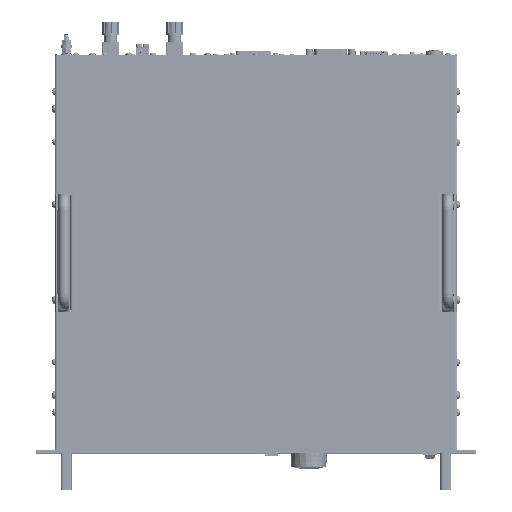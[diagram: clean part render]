
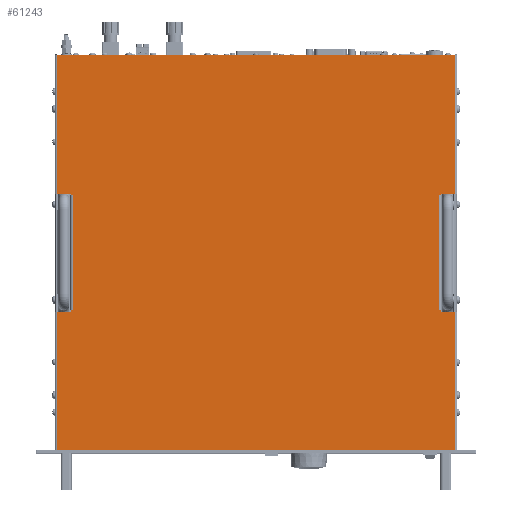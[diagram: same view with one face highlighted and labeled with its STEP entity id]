
A CAD part, top view. The second image highlights one B-rep face of the part: STEP entity #61243.
In plain terms, the highlighted planar face has unit normal (0, 0, 1).
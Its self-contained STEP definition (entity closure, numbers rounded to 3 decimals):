
#61243=ADVANCED_FACE('',(#126492),#126493,.F.);
#126492=FACE_OUTER_BOUND('',#227764,.T.);
#126493=PLANE('',#227765);
#227764=EDGE_LOOP('',(#398678,#398679,#398680,#398681,#398682,#398683,#398684,#398685,#398686,#398687,#398688,#398689,#398690,#398691,#398692,#398693,#398694,#398695,#398696,#398697));
#227765=AXIS2_PLACEMENT_3D('',#398698,#398699,#398700);
#398678=ORIENTED_EDGE('',*,*,#491379,.T.);
#398679=ORIENTED_EDGE('',*,*,#491399,.F.);
#398680=ORIENTED_EDGE('',*,*,#491400,.F.);
#398681=ORIENTED_EDGE('',*,*,#491043,.F.);
#398682=ORIENTED_EDGE('',*,*,#491365,.F.);
#398683=ORIENTED_EDGE('',*,*,#491028,.F.);
#398684=ORIENTED_EDGE('',*,*,#491354,.F.);
#398685=ORIENTED_EDGE('',*,*,#491401,.F.);
#398686=ORIENTED_EDGE('',*,*,#491397,.T.);
#398687=ORIENTED_EDGE('',*,*,#491392,.F.);
#398688=ORIENTED_EDGE('',*,*,#491389,.T.);
#398689=ORIENTED_EDGE('',*,*,#491402,.F.);
#398690=ORIENTED_EDGE('',*,*,#491330,.F.);
#398691=ORIENTED_EDGE('',*,*,#491018,.F.);
#398692=ORIENTED_EDGE('',*,*,#491319,.F.);
#398693=ORIENTED_EDGE('',*,*,#491038,.F.);
#398694=ORIENTED_EDGE('',*,*,#491403,.F.);
#398695=ORIENTED_EDGE('',*,*,#491404,.F.);
#398696=ORIENTED_EDGE('',*,*,#491376,.T.);
#398697=ORIENTED_EDGE('',*,*,#491384,.T.);
#398698=CARTESIAN_POINT('',(239.8,220.125,86.465));
#398699=DIRECTION('',(0.,0.,-1.0));
#398700=DIRECTION('',(1.0,0.,0.));
#491018=EDGE_CURVE('',#594998,#595000,#595001,.T.);
#491028=EDGE_CURVE('',#595016,#595018,#595019,.T.);
#491038=EDGE_CURVE('',#595034,#595036,#595037,.T.);
#491043=EDGE_CURVE('',#595043,#595045,#595046,.T.);
#491319=EDGE_CURVE('',#595036,#594998,#595476,.T.);
#491330=EDGE_CURVE('',#595000,#595491,#595492,.T.);
#491354=EDGE_CURVE('',#595524,#595016,#595526,.T.);
#491365=EDGE_CURVE('',#595018,#595043,#595541,.T.);
#491376=EDGE_CURVE('',#595552,#595555,#595557,.T.);
#491379=EDGE_CURVE('',#595562,#595559,#595563,.T.);
#491384=EDGE_CURVE('',#595555,#595562,#595568,.T.);
#491389=EDGE_CURVE('',#595574,#595572,#595575,.T.);
#491392=EDGE_CURVE('',#595574,#595578,#595579,.T.);
#491397=EDGE_CURVE('',#595584,#595578,#595586,.T.);
#491399=EDGE_CURVE('',#595588,#595559,#595589,.T.);
#491400=EDGE_CURVE('',#595045,#595588,#595590,.T.);
#491401=EDGE_CURVE('',#595584,#595524,#595591,.T.);
#491402=EDGE_CURVE('',#595491,#595572,#595592,.T.);
#491403=EDGE_CURVE('',#595593,#595034,#595594,.T.);
#491404=EDGE_CURVE('',#595552,#595593,#595595,.T.);
#594998=VERTEX_POINT('',#740963);
#595000=VERTEX_POINT('',#740965);
#595001=LINE('',#740966,#740967);
#595016=VERTEX_POINT('',#740985);
#595018=VERTEX_POINT('',#740987);
#595019=LINE('',#740988,#740989);
#595034=VERTEX_POINT('',#741007);
#595036=VERTEX_POINT('',#741009);
#595037=LINE('',#741010,#741011);
#595043=VERTEX_POINT('',#741018);
#595045=VERTEX_POINT('',#741020);
#595046=LINE('',#741021,#741022);
#595476=LINE('',#741573,#741574);
#595491=VERTEX_POINT('',#741594);
#595492=LINE('',#741595,#741596);
#595524=VERTEX_POINT('',#741642);
#595526=LINE('',#741645,#741646);
#595541=LINE('',#741666,#741667);
#595552=VERTEX_POINT('',#741682);
#595555=VERTEX_POINT('',#741686);
#595557=LINE('',#741688,#741689);
#595559=VERTEX_POINT('',#741691);
#595562=VERTEX_POINT('',#741695);
#595563=LINE('',#741696,#741697);
#595568=LINE('',#741702,#741703);
#595572=VERTEX_POINT('',#741708);
#595574=VERTEX_POINT('',#741711);
#595575=LINE('',#741712,#741713);
#595578=VERTEX_POINT('',#741716);
#595579=LINE('',#741717,#741718);
#595584=VERTEX_POINT('',#741723);
#595586=LINE('',#741726,#741727);
#595588=VERTEX_POINT('',#741729);
#595589=LINE('',#741730,#741731);
#595590=LINE('',#741732,#741733);
#595591=LINE('',#741734,#741735);
#595592=LINE('',#741736,#741737);
#595593=VERTEX_POINT('',#741738);
#595594=LINE('',#741739,#741740);
#595595=LINE('',#741741,#741742);
#740963=CARTESIAN_POINT('',(22.123,3.5,86.465));
#740965=CARTESIAN_POINT('',(22.123,155.5,86.465));
#740966=CARTESIAN_POINT('',(22.123,149.813,86.465));
#740967=VECTOR('',#842588,1.0);
#740985=CARTESIAN_POINT('',(22.123,284.75,86.465));
#740987=CARTESIAN_POINT('',(22.123,436.75,86.465));
#740988=CARTESIAN_POINT('',(22.123,290.438,86.465));
#740989=VECTOR('',#842604,1.0);
#741007=CARTESIAN_POINT('',(457.477,155.5,86.465));
#741009=CARTESIAN_POINT('',(457.477,3.5,86.465));
#741010=CARTESIAN_POINT('',(457.477,149.813,86.465));
#741011=VECTOR('',#842620,1.0);
#741018=CARTESIAN_POINT('',(457.477,436.75,86.465));
#741020=CARTESIAN_POINT('',(457.477,284.75,86.465));
#741021=CARTESIAN_POINT('',(457.477,290.438,86.465));
#741022=VECTOR('',#842628,1.0);
#741573=CARTESIAN_POINT('',(460.227,3.5,86.465));
#741574=VECTOR('',#843014,1.0);
#741594=CARTESIAN_POINT('',(37.373,155.5,86.465));
#741595=CARTESIAN_POINT('',(19.373,155.5,86.465));
#741596=VECTOR('',#843032,1.0);
#741642=CARTESIAN_POINT('',(37.373,284.75,86.465));
#741645=CARTESIAN_POINT('',(37.373,284.75,86.465));
#741646=VECTOR('',#843060,1.0);
#741666=CARTESIAN_POINT('',(19.373,436.75,86.465));
#741667=VECTOR('',#843078,1.0);
#741682=CARTESIAN_POINT('',(442.227,157.5,86.465));
#741686=CARTESIAN_POINT('',(440.477,157.5,86.465));
#741688=CARTESIAN_POINT('',(341.093,157.5,86.465));
#741689=VECTOR('',#843090,1.0);
#741691=CARTESIAN_POINT('',(442.227,282.75,86.465));
#741695=CARTESIAN_POINT('',(440.477,282.75,86.465));
#741696=CARTESIAN_POINT('',(341.093,282.75,86.465));
#741697=VECTOR('',#843092,1.0);
#741702=CARTESIAN_POINT('',(440.477,220.125,86.465));
#741703=VECTOR('',#843102,1.0);
#741708=CARTESIAN_POINT('',(37.373,157.5,86.465));
#741711=CARTESIAN_POINT('',(39.123,157.5,86.465));
#741712=CARTESIAN_POINT('',(138.507,157.5,86.465));
#741713=VECTOR('',#843105,1.0);
#741716=CARTESIAN_POINT('',(39.123,282.75,86.465));
#741717=CARTESIAN_POINT('',(39.123,220.125,86.465));
#741718=VECTOR('',#843109,1.0);
#741723=CARTESIAN_POINT('',(37.373,282.75,86.465));
#741726=CARTESIAN_POINT('',(138.507,282.75,86.465));
#741727=VECTOR('',#843117,1.0);
#741729=CARTESIAN_POINT('',(442.227,284.75,86.465));
#741730=CARTESIAN_POINT('',(442.227,284.75,86.465));
#741731=VECTOR('',#843118,1.0);
#741732=CARTESIAN_POINT('',(460.227,284.75,86.465));
#741733=VECTOR('',#843119,1.0);
#741734=CARTESIAN_POINT('',(37.373,282.75,86.465));
#741735=VECTOR('',#843120,1.0);
#741736=CARTESIAN_POINT('',(37.373,155.5,86.465));
#741737=VECTOR('',#843121,1.0);
#741738=CARTESIAN_POINT('',(442.227,155.5,86.465));
#741739=CARTESIAN_POINT('',(442.227,155.5,86.465));
#741740=VECTOR('',#843122,1.0);
#741741=CARTESIAN_POINT('',(442.227,157.5,86.465));
#741742=VECTOR('',#843123,1.0);
#842588=DIRECTION('',(0.0,1.0,0.));
#842604=DIRECTION('',(0.0,1.0,0.));
#842620=DIRECTION('',(0.0,-1.0,0.));
#842628=DIRECTION('',(0.0,-1.0,0.));
#843014=DIRECTION('',(-1.0,0.0,0.));
#843032=DIRECTION('',(1.0,0.0,0.0));
#843060=DIRECTION('',(-1.0,0.0,0.0));
#843078=DIRECTION('',(1.0,0.0,0.0));
#843090=DIRECTION('',(-1.0,0.0,0.0));
#843092=DIRECTION('',(1.0,0.0,0.0));
#843102=DIRECTION('',(0.0,1.0,0.));
#843105=DIRECTION('',(-1.0,0.0,0.0));
#843109=DIRECTION('',(0.0,1.0,0.));
#843117=DIRECTION('',(1.0,0.0,0.0));
#843118=DIRECTION('',(0.0,-1.0,0.));
#843119=DIRECTION('',(-1.0,0.0,0.0));
#843120=DIRECTION('',(0.0,1.0,0.));
#843121=DIRECTION('',(0.0,1.0,0.));
#843122=DIRECTION('',(1.0,0.0,0.0));
#843123=DIRECTION('',(0.0,-1.0,0.));
